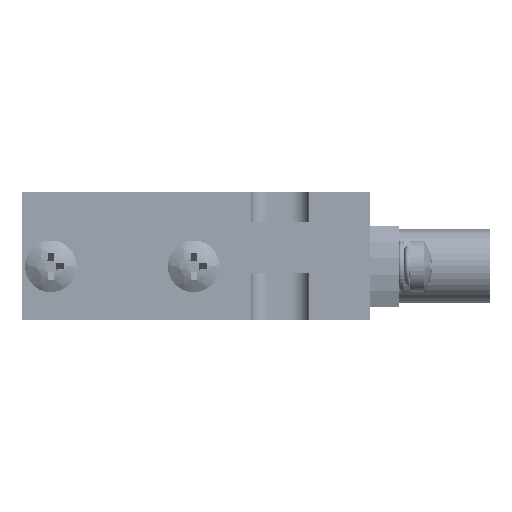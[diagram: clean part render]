
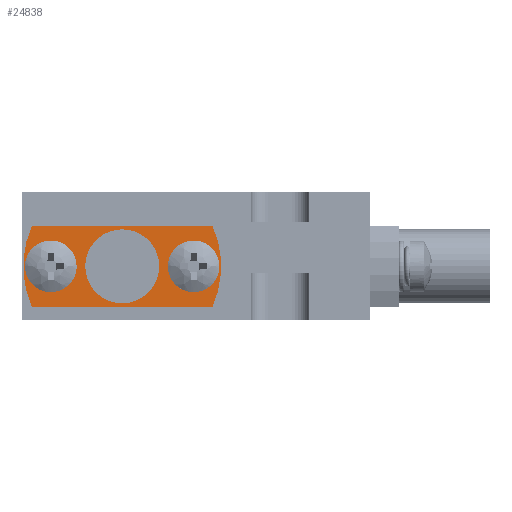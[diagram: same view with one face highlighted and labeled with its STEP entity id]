
A CAD part, left-side view. The second image highlights one B-rep face of the part: STEP entity #24838.
In plain terms, the highlighted planar face has unit normal (-1, 0, 0) as drawn and (0, 0, 1) by its records, which use the part's own axes.
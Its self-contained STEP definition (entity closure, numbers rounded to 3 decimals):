
#176 = VECTOR ( 'NONE', #6358, 1000. ) ;
#718 = DIRECTION ( 'NONE',  ( 1., 0., 0. ) ) ;
#853 = CARTESIAN_POINT ( 'NONE',  ( 0., 0., 1.7 ) ) ;
#945 = EDGE_LOOP ( 'NONE', ( #11195, #15017 ) ) ;
#2415 = CIRCLE ( 'NONE', #9836, 1.1 ) ;
#2646 = CARTESIAN_POINT ( 'NONE',  ( 2.35, 5.248, 1.7 ) ) ;
#2877 = CARTESIAN_POINT ( 'NONE',  ( 2.15, 0., 1.7 ) ) ;
#3339 = FACE_BOUND ( 'NONE', #21883, .T. ) ;
#4233 = VECTOR ( 'NONE', #11254, 1000. ) ;
#4667 = CARTESIAN_POINT ( 'NONE',  ( 0., -4.15, 1.7 ) ) ;
#4933 = ORIENTED_EDGE ( 'NONE', *, *, #21192, .F. ) ;
#5137 = DIRECTION ( 'NONE',  ( 0., 0., 1. ) ) ;
#5348 = AXIS2_PLACEMENT_3D ( 'NONE', #7328, #13598, #15868 ) ;
#5695 = CIRCLE ( 'NONE', #7548, 2.15 ) ;
#5732 = DIRECTION ( 'NONE',  ( 1., 0., 0. ) ) ;
#6132 = CARTESIAN_POINT ( 'NONE',  ( -2.35, -5.248, 1.7 ) ) ;
#6358 = DIRECTION ( 'NONE',  ( 0., 1., 0. ) ) ;
#6680 = VERTEX_POINT ( 'NONE', #25542 ) ;
#7014 = CARTESIAN_POINT ( 'NONE',  ( -2.35, 5.248, 1.7 ) ) ;
#7130 = DIRECTION ( 'NONE',  ( 0., 0., 1. ) ) ;
#7261 = ORIENTED_EDGE ( 'NONE', *, *, #10531, .T. ) ;
#7328 = CARTESIAN_POINT ( 'NONE',  ( 0., 4.15, 1.7 ) ) ;
#7365 = CARTESIAN_POINT ( 'NONE',  ( 1.1, -4.15, 1.7 ) ) ;
#7548 = AXIS2_PLACEMENT_3D ( 'NONE', #11368, #7130, #18068 ) ;
#8659 = CARTESIAN_POINT ( 'NONE',  ( 2.35, 0., 1.7 ) ) ;
#8738 = CARTESIAN_POINT ( 'NONE',  ( 1.1, 4.15, 1.7 ) ) ;
#8751 = DIRECTION ( 'NONE',  ( 1., 0., 0. ) ) ;
#9459 = CIRCLE ( 'NONE', #5348, 1.1 ) ;
#9622 = VERTEX_POINT ( 'NONE', #24308 ) ;
#9663 = DIRECTION ( 'NONE',  ( -1., 0., 0. ) ) ;
#9836 = AXIS2_PLACEMENT_3D ( 'NONE', #13219, #25969, #718 ) ;
#9873 = DIRECTION ( 'NONE',  ( 0., 0., 1. ) ) ;
#10026 = CARTESIAN_POINT ( 'NONE',  ( 0., 0., 1.7 ) ) ;
#10169 = CARTESIAN_POINT ( 'NONE',  ( -2.15, 0., 1.7 ) ) ;
#10531 = EDGE_CURVE ( 'NONE', #6680, #24289, #25473, .T. ) ;
#10574 = EDGE_CURVE ( 'NONE', #13022, #14059, #14306, .T. ) ;
#10962 = ORIENTED_EDGE ( 'NONE', *, *, #11861, .T. ) ;
#11195 = ORIENTED_EDGE ( 'NONE', *, *, #24592, .F. ) ;
#11201 = AXIS2_PLACEMENT_3D ( 'NONE', #20010, #13754, #20109 ) ;
#11254 = DIRECTION ( 'NONE',  ( 0., -1., 0. ) ) ;
#11368 = CARTESIAN_POINT ( 'NONE',  ( 0., 0., 1.7 ) ) ;
#11861 = EDGE_CURVE ( 'NONE', #24289, #19813, #16218, .T. ) ;
#13022 = VERTEX_POINT ( 'NONE', #7365 ) ;
#13219 = CARTESIAN_POINT ( 'NONE',  ( 0., -4.15, 1.7 ) ) ;
#13526 = DIRECTION ( 'NONE',  ( 0., 0., 1. ) ) ;
#13598 = DIRECTION ( 'NONE',  ( 0., 0., 1. ) ) ;
#13668 = VERTEX_POINT ( 'NONE', #6132 ) ;
#13754 = DIRECTION ( 'NONE',  ( 0., 0., 1. ) ) ;
#14059 = VERTEX_POINT ( 'NONE', #25964 ) ;
#14225 = ORIENTED_EDGE ( 'NONE', *, *, #10574, .F. ) ;
#14241 = EDGE_CURVE ( 'NONE', #13668, #6680, #25086, .T. ) ;
#14286 = ORIENTED_EDGE ( 'NONE', *, *, #26789, .T. ) ;
#14306 = CIRCLE ( 'NONE', #16977, 1.1 ) ;
#15017 = ORIENTED_EDGE ( 'NONE', *, *, #21933, .F. ) ;
#15528 = AXIS2_PLACEMENT_3D ( 'NONE', #853, #5137, #17840 ) ;
#15808 = AXIS2_PLACEMENT_3D ( 'NONE', #24656, #9873, #5732 ) ;
#15868 = DIRECTION ( 'NONE',  ( 1., 0., 0. ) ) ;
#16159 = FACE_BOUND ( 'NONE', #22314, .T. ) ;
#16218 = CIRCLE ( 'NONE', #11201, 5.75 ) ;
#16247 = CARTESIAN_POINT ( 'NONE',  ( -2.35, 5.248, 1.7 ) ) ;
#16977 = AXIS2_PLACEMENT_3D ( 'NONE', #4667, #21348, #8751 ) ;
#17840 = DIRECTION ( 'NONE',  ( -1., 0., 0. ) ) ;
#18068 = DIRECTION ( 'NONE',  ( -1., 0., 0. ) ) ;
#18607 = ORIENTED_EDGE ( 'NONE', *, *, #21904, .F. ) ;
#18891 = EDGE_LOOP ( 'NONE', ( #10962, #14286, #21056, #7261 ) ) ;
#18913 = VERTEX_POINT ( 'NONE', #8738 ) ;
#19053 = EDGE_CURVE ( 'NONE', #9622, #18913, #9459, .T. ) ;
#19406 = VERTEX_POINT ( 'NONE', #10169 ) ;
#19813 = VERTEX_POINT ( 'NONE', #16247 ) ;
#20010 = CARTESIAN_POINT ( 'NONE',  ( 0., 0., 1.7 ) ) ;
#20109 = DIRECTION ( 'NONE',  ( -1., 0., 0. ) ) ;
#21056 = ORIENTED_EDGE ( 'NONE', *, *, #14241, .T. ) ;
#21192 = EDGE_CURVE ( 'NONE', #18913, #9622, #24135, .T. ) ;
#21348 = DIRECTION ( 'NONE',  ( 0., 0., 1. ) ) ;
#21883 = EDGE_LOOP ( 'NONE', ( #14225, #18607 ) ) ;
#21904 = EDGE_CURVE ( 'NONE', #14059, #13022, #2415, .T. ) ;
#21933 = EDGE_CURVE ( 'NONE', #23046, #19406, #5695, .T. ) ;
#22080 = CARTESIAN_POINT ( 'NONE',  ( 0., 4.15, 1.7 ) ) ;
#22314 = EDGE_LOOP ( 'NONE', ( #4933, #26496 ) ) ;
#22625 = PLANE ( 'NONE',  #24149 ) ;
#22773 = CIRCLE ( 'NONE', #15528, 2.15 ) ;
#23046 = VERTEX_POINT ( 'NONE', #2877 ) ;
#23789 = DIRECTION ( 'NONE',  ( 1., 0., 0. ) ) ;
#24135 = CIRCLE ( 'NONE', #25484, 1.1 ) ;
#24149 = AXIS2_PLACEMENT_3D ( 'NONE', #10026, #24719, #9663 ) ;
#24289 = VERTEX_POINT ( 'NONE', #2646 ) ;
#24308 = CARTESIAN_POINT ( 'NONE',  ( -1.1, 4.15, 1.7 ) ) ;
#24592 = EDGE_CURVE ( 'NONE', #19406, #23046, #22773, .T. ) ;
#24656 = CARTESIAN_POINT ( 'NONE',  ( 0., 0., 1.7 ) ) ;
#24719 = DIRECTION ( 'NONE',  ( 0., 0., -1. ) ) ;
#24838 = ADVANCED_FACE ( 'NONE', ( #3339, #16159, #27033, #25711 ), #22625, .F. ) ;
#25086 = CIRCLE ( 'NONE', #15808, 5.75 ) ;
#25473 = LINE ( 'NONE', #8659, #176 ) ;
#25484 = AXIS2_PLACEMENT_3D ( 'NONE', #22080, #13526, #23789 ) ;
#25542 = CARTESIAN_POINT ( 'NONE',  ( 2.35, -5.248, 1.7 ) ) ;
#25625 = LINE ( 'NONE', #7014, #4233 ) ;
#25711 = FACE_BOUND ( 'NONE', #945, .T. ) ;
#25964 = CARTESIAN_POINT ( 'NONE',  ( -1.1, -4.15, 1.7 ) ) ;
#25969 = DIRECTION ( 'NONE',  ( 0., 0., 1. ) ) ;
#26496 = ORIENTED_EDGE ( 'NONE', *, *, #19053, .F. ) ;
#26789 = EDGE_CURVE ( 'NONE', #19813, #13668, #25625, .T. ) ;
#27033 = FACE_OUTER_BOUND ( 'NONE', #18891, .T. ) ;
